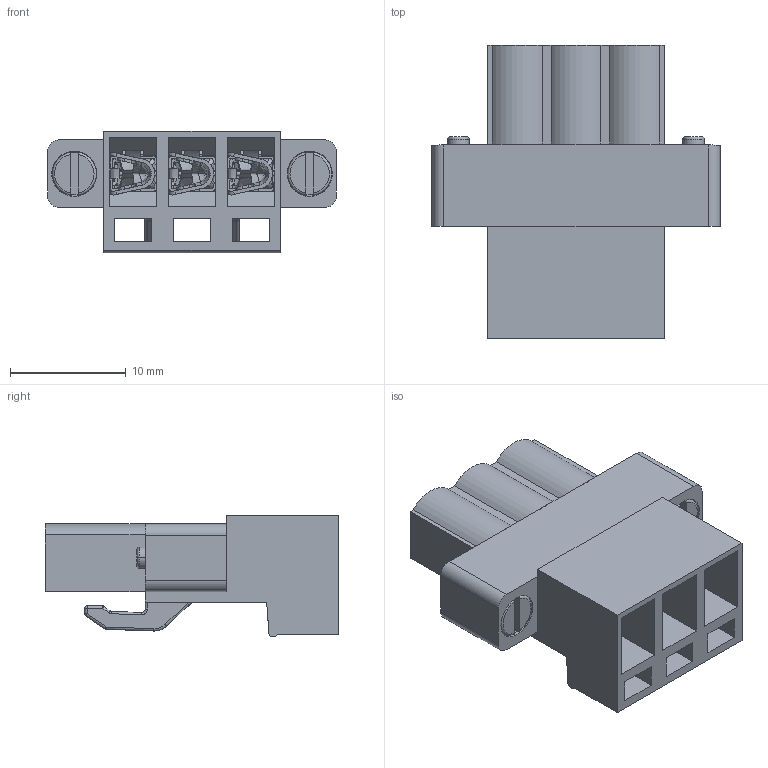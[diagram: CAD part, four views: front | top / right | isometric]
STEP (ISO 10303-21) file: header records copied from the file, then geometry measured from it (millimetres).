
FILE_DESCRIPTION((''),'2;1');
FILE_NAME('3PIN','2021-05-07T',('renkang.li'),(''),'CREO PARAMETRIC BY PTC INC, 2016260','CREO PARAMETRIC BY PTC INC, 2016260','');
FILE_SCHEMA(('CONFIG_CONTROL_DESIGN'));
Length unit declared in the file: millimetre
Products named in the file (1): 3PIN
Bounding box: 24.9 x 25.3 x 10.5 mm (x, y, z)
Volume: 1810.1 mm3; surface area: 4726.5 mm2
Topology: 1 solids, 1 shells, 1349 faces, 3781 edges, 2386 vertices
Faces by surface type: plane 698, cylinder 389, bspline 105, torus 80, extrusion 33, cone 28, sphere 16
Entity records: 48550 total; most frequent: CARTESIAN_POINT 14513, ORIENTED_EDGE 7530, DIRECTION 6560, EDGE_CURVE 3765, VECTOR 2386, VERTEX_POINT 2386, LINE 2353, AXIS2_PLACEMENT_3D 2087
